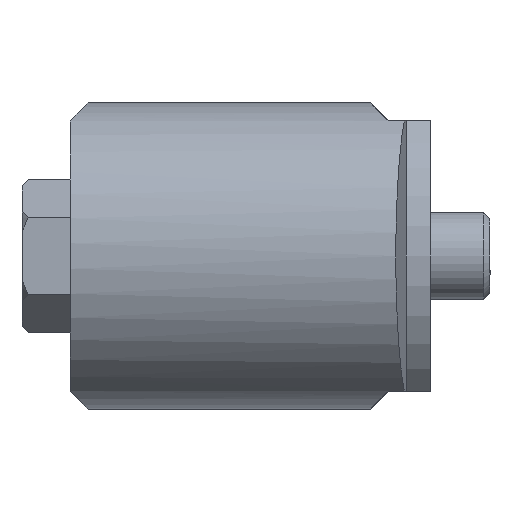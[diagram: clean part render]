
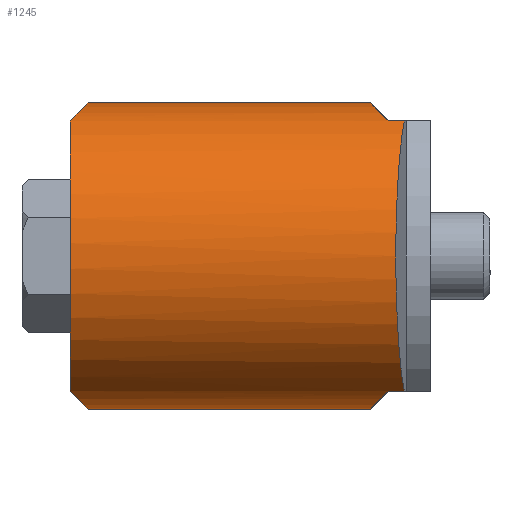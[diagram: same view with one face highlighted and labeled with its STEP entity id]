
A CAD part, left-side view. The second image highlights one B-rep face of the part: STEP entity #1245.
In plain terms, the highlighted cylindrical face has radius 12.75 mm (diameter 25.5 mm), a partial arc.
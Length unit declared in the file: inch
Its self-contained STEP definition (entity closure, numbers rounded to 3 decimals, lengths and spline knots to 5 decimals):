
#36=ELLIPSE('',#1351,0.70989,0.50197);
#37=ELLIPSE('',#1354,0.70989,0.50197);
#38=ELLIPSE('',#1357,0.70989,0.50197);
#39=ELLIPSE('',#1359,0.70989,0.50197);
#40=ELLIPSE('',#1363,0.50473,0.50197);
#69=LINE('',#1943,#140);
#82=LINE('',#1973,#153);
#91=LINE('',#1998,#162);
#92=LINE('',#2000,#163);
#140=VECTOR('',#1558,0.3937);
#153=VECTOR('',#1577,0.3937);
#162=VECTOR('',#1604,0.3937);
#163=VECTOR('',#1607,0.3937);
#208=CYLINDRICAL_SURFACE('',#1364,0.50197);
#242=FACE_OUTER_BOUND('',#315,.T.);
#315=EDGE_LOOP('',(#851,#852,#853,#854,#855,#856,#857,#858,#859,#860));
#400=CIRCLE('',#1365,0.50197);
#485=VERTEX_POINT('',#1933);
#486=VERTEX_POINT('',#1934);
#489=VERTEX_POINT('',#1942);
#494=VERTEX_POINT('',#1954);
#495=VERTEX_POINT('',#1955);
#502=VERTEX_POINT('',#1970);
#503=VERTEX_POINT('',#1972);
#505=VERTEX_POINT('',#1978);
#507=VERTEX_POINT('',#1984);
#508=VERTEX_POINT('',#1985);
#616=EDGE_CURVE('',#485,#486,#36,.T.);
#620=EDGE_CURVE('',#486,#489,#69,.T.);
#626=EDGE_CURVE('',#494,#495,#37,.T.);
#634=EDGE_CURVE('',#503,#502,#82,.T.);
#637=EDGE_CURVE('',#502,#505,#38,.T.);
#640=EDGE_CURVE('',#507,#508,#39,.T.);
#646=EDGE_CURVE('',#489,#503,#40,.T.);
#647=EDGE_CURVE('',#505,#507,#91,.T.);
#648=EDGE_CURVE('',#494,#508,#400,.T.);
#649=EDGE_CURVE('',#485,#495,#92,.T.);
#851=ORIENTED_EDGE('',*,*,#616,.T.);
#852=ORIENTED_EDGE('',*,*,#620,.T.);
#853=ORIENTED_EDGE('',*,*,#646,.T.);
#854=ORIENTED_EDGE('',*,*,#634,.T.);
#855=ORIENTED_EDGE('',*,*,#637,.T.);
#856=ORIENTED_EDGE('',*,*,#647,.T.);
#857=ORIENTED_EDGE('',*,*,#640,.T.);
#858=ORIENTED_EDGE('',*,*,#648,.F.);
#859=ORIENTED_EDGE('',*,*,#626,.T.);
#860=ORIENTED_EDGE('',*,*,#649,.F.);
#1245=ADVANCED_FACE('',(#242),#208,.T.);
#1351=AXIS2_PLACEMENT_3D('',#1935,#1551,#1552);
#1354=AXIS2_PLACEMENT_3D('',#1956,#1566,#1567);
#1357=AXIS2_PLACEMENT_3D('',#1979,#1582,#1583);
#1359=AXIS2_PLACEMENT_3D('',#1986,#1588,#1589);
#1363=AXIS2_PLACEMENT_3D('',#1996,#1600,#1601);
#1364=AXIS2_PLACEMENT_3D('',#1997,#1602,#1603);
#1365=AXIS2_PLACEMENT_3D('',#1999,#1605,#1606);
#1551=DIRECTION('center_axis',(0.,0.707,0.707));
#1552=DIRECTION('ref_axis',(0.,-0.707,0.707));
#1558=DIRECTION('',(0.,-1.,0.));
#1566=DIRECTION('center_axis',(0.,-0.707,0.707));
#1567=DIRECTION('ref_axis',(0.,0.707,0.707));
#1577=DIRECTION('',(0.,1.,0.));
#1582=DIRECTION('center_axis',(0.,0.707,-0.707));
#1583=DIRECTION('ref_axis',(0.,0.707,0.707));
#1588=DIRECTION('center_axis',(0.,-0.707,-0.707));
#1589=DIRECTION('ref_axis',(0.,-0.707,0.707));
#1600=DIRECTION('center_axis',(0.105,0.995,0.));
#1601=DIRECTION('ref_axis',(-0.995,0.105,0.));
#1602=DIRECTION('center_axis',(0.,-1.,0.));
#1603=DIRECTION('ref_axis',(0.,0.,1.));
#1604=DIRECTION('',(0.,1.,0.));
#1605=DIRECTION('center_axis',(0.,1.,0.));
#1606=DIRECTION('ref_axis',(0.,0.,1.));
#1607=DIRECTION('',(0.,1.,0.));
#1933=CARTESIAN_POINT('',(-1.90163,-0.02817,-1.64506));
#1934=CARTESIAN_POINT('',(-2.13785,-0.08722,-1.58601));
#1935=CARTESIAN_POINT('Origin',(-1.90163,-0.53014,-1.14309));
#1942=CARTESIAN_POINT('',(-2.13785,-0.14069,-1.58601));
#1943=CARTESIAN_POINT('',(-2.13785,0.95608,-1.58601));
#1954=CARTESIAN_POINT('',(-2.13785,0.95608,-1.58601));
#1955=CARTESIAN_POINT('',(-1.90163,0.89703,-1.64506));
#1956=CARTESIAN_POINT('Origin',(-1.90163,1.399,-1.14309));
#1970=CARTESIAN_POINT('',(-2.13785,-0.08722,-0.70018));
#1972=CARTESIAN_POINT('',(-2.13785,-0.14069,-0.70018));
#1973=CARTESIAN_POINT('',(-2.13785,0.95608,-0.70018));
#1978=CARTESIAN_POINT('',(-1.90163,-0.02817,-0.64112));
#1979=CARTESIAN_POINT('Origin',(-1.90163,-0.53014,-1.14309));
#1984=CARTESIAN_POINT('',(-1.90163,0.89703,-0.64112));
#1985=CARTESIAN_POINT('',(-2.13785,0.95608,-0.70018));
#1986=CARTESIAN_POINT('Origin',(-1.90163,1.399,-1.14309));
#1996=CARTESIAN_POINT('Origin',(-1.90163,-0.16552,-1.14309));
#1997=CARTESIAN_POINT('Origin',(-1.90163,0.95608,-1.14309));
#1998=CARTESIAN_POINT('',(-1.90163,0.95608,-0.64112));
#1999=CARTESIAN_POINT('Origin',(-1.90163,0.95608,-1.14309));
#2000=CARTESIAN_POINT('',(-1.90163,0.95608,-1.64506));
